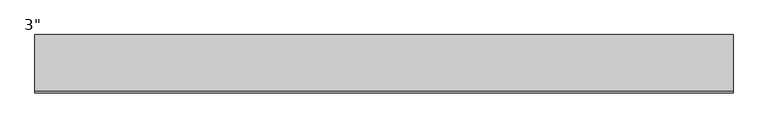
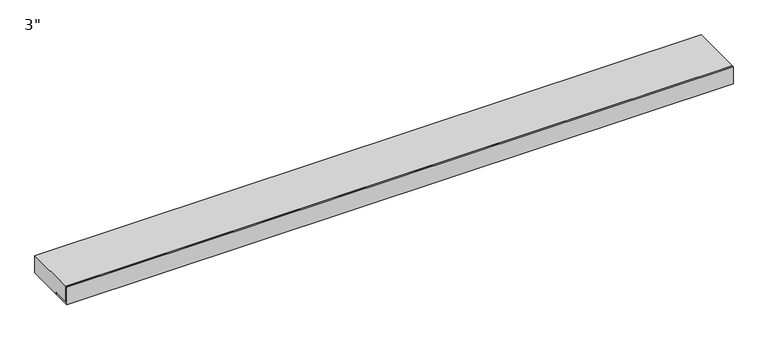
"""IFC4 building model written with IfcOpenShell, lengths in millimetres: proxy geometry."""

from ifc_helpers import new_model, si_unit, frame, origin, place, context, project, spatial, polyline, outline, extrude, faceted_brep, source, transform, mapped, element, save


def proxy_691c8b69(model_context):
    return source(origin(), model_context, "Body", "SolidModel", [
        faceted_brep([(1219.2, 101.6, 9.525), (1219.2, 101.6, 76.2), (1219.2, -95.25, 76.2), (1219.2, -95.25, 15.875), (1219.2, -34.925, 15.875), (1219.2, -34.925, 9.525), (-1219.2, -34.925, 9.525), (-1219.2, -34.925, 15.875), (-1219.2, -95.25, 15.875), (-1219.2, -95.25, 76.2), (-1219.2, 101.6, 76.2), (-1219.2, 101.6, 9.525), (1193.8, 101.6, 9.525), (1041.4, 101.6, 9.525), (990.6, 101.6, 9.525), (838.2, 101.6, 9.525), (787.4, 101.6, 9.525), (635.0, 101.6, 9.525), (584.2, 101.6, 9.525), (431.8, 101.6, 9.525), (381.0, 101.6, 9.525), (228.6, 101.6, 9.525), (177.8, 101.6, 9.525), (25.4, 101.6, 9.525), (-25.4, 101.6, 9.525), (-177.8, 101.6, 9.525), (-228.6, 101.6, 9.525), (-381.0, 101.6, 9.525), (-431.8, 101.6, 9.525), (-584.2, 101.6, 9.525), (-635.0, 101.6, 9.525), (-787.4, 101.6, 9.525), (-838.2, 101.6, 9.525), (-990.6, 101.6, 9.525), (-1041.4, 101.6, 9.525), (-1193.8, 101.6, 9.525), (-990.6, 92.075, 0.0), (-838.2, 92.075, 0.0), (-838.2, -25.4, 0.0), (-990.6, -25.4, 0.0), (-787.4, 92.075, 0.0), (-635.0, 92.075, 0.0), (-635.0, -25.4, 0.0), (-787.4, -25.4, 0.0), (-584.2, 92.075, 0.0), (-431.8, 92.075, 0.0), (-431.8, -25.4, 0.0), (-584.2, -25.4, 0.0), (-381.0, 92.075, 0.0), (-228.6, 92.075, 0.0), (-228.6, -25.4, 0.0), (-381.0, -25.4, 0.0), (-177.8, 92.075, 0.0), (-25.4, 92.075, 0.0), (-25.4, -25.4, 0.0), (-177.8, -25.4, 0.0), (25.4, 92.075, 0.0), (177.8, 92.075, 0.0), (177.8, -25.4, 0.0), (25.4, -25.4, 0.0), (228.6, 92.075, 0.0), (381.0, 92.075, 0.0), (381.0, -25.4, 0.0), (228.6, -25.4, 0.0), (431.8, 92.075, 0.0), (584.2, 92.075, 0.0), (584.2, -25.4, 0.0), (431.8, -25.4, 0.0), (635.0, 92.075, 0.0), (787.4, 92.075, 0.0), (787.4, -25.4, 0.0), (635.0, -25.4, 0.0), (838.2, 92.075, 0.0), (990.6, 92.075, 0.0), (990.6, -25.4, 0.0), (838.2, -25.4, 0.0), (-1193.8, 92.075, 0.0), (-1041.4, 92.075, 0.0), (-1041.4, -25.4, 0.0), (-1193.8, -25.4, 0.0), (1041.4, 92.075, 0.0), (1193.8, 92.075, 0.0), (1193.8, -25.4, 0.0), (1041.4, -25.4, 0.0), (-1193.8, -34.925, 9.525), (-1041.4, -34.925, 9.525), (-990.6, -34.925, 9.525), (-838.2, -34.925, 9.525), (-787.4, -34.925, 9.525), (-635.0, -34.925, 9.525), (-584.2, -34.925, 9.525), (-431.8, -34.925, 9.525), (-381.0, -34.925, 9.525), (-228.6, -34.925, 9.525), (-177.8, -34.925, 9.525), (-25.4, -34.925, 9.525), (25.4, -34.925, 9.525), (177.8, -34.925, 9.525), (228.6, -34.925, 9.525), (381.0, -34.925, 9.525), (431.8, -34.925, 9.525), (584.2, -34.925, 9.525), (635.0, -34.925, 9.525), (787.4, -34.925, 9.525), (838.2, -34.925, 9.525), (990.6, -34.925, 9.525), (1041.4, -34.925, 9.525), (1193.8, -34.925, 9.525)], [[[0, 1, 2, 3, 4, 5]], [[6, 7, 8, 9, 10, 11]], [[4, 3, 8, 7]], [[3, 2, 9, 8]], [[2, 1, 10, 9]], [[1, 0, 12, 13, 14, 15, 16, 17, 18, 19, 20, 21, 22, 23, 24, 25, 26, 27, 28, 29, 30, 31, 32, 33, 34, 35, 11, 10]], [[36, 37, 38, 39]], [[40, 41, 42, 43]], [[44, 45, 46, 47]], [[48, 49, 50, 51]], [[52, 53, 54, 55]], [[56, 57, 58, 59]], [[60, 61, 62, 63]], [[64, 65, 66, 67]], [[68, 69, 70, 71]], [[72, 73, 74, 75]], [[76, 77, 78, 79]], [[80, 81, 82, 83]], [[5, 4, 7, 6, 84, 85, 86, 87, 88, 89, 90, 91, 92, 93, 94, 95, 96, 97, 98, 99, 100, 101, 102, 103, 104, 105, 106, 107]], [[37, 36, 33, 32]], [[41, 40, 31, 30]], [[45, 44, 29, 28]], [[49, 48, 27, 26]], [[53, 52, 25, 24]], [[57, 56, 23, 22]], [[61, 60, 21, 20]], [[65, 64, 19, 18]], [[69, 68, 17, 16]], [[73, 72, 15, 14]], [[77, 76, 35, 34]], [[81, 80, 13, 12]], [[85, 84, 79, 78]], [[87, 86, 39, 38]], [[89, 88, 43, 42]], [[91, 90, 47, 46]], [[93, 92, 51, 50]], [[95, 94, 55, 54]], [[97, 96, 59, 58]], [[99, 98, 63, 62]], [[101, 100, 67, 66]], [[103, 102, 71, 70]], [[105, 104, 75, 74]], [[107, 106, 83, 82]], [[86, 33, 36, 39]], [[33, 86, 85, 34]], [[34, 85, 78, 77]], [[88, 31, 40, 43]], [[31, 88, 87, 32]], [[32, 87, 38, 37]], [[90, 29, 44, 47]], [[29, 90, 89, 30]], [[30, 89, 42, 41]], [[92, 27, 48, 51]], [[27, 92, 91, 28]], [[28, 91, 46, 45]], [[94, 25, 52, 55]], [[25, 94, 93, 26]], [[26, 93, 50, 49]], [[96, 23, 56, 59]], [[23, 96, 95, 24]], [[24, 95, 54, 53]], [[98, 21, 60, 63]], [[21, 98, 97, 22]], [[22, 97, 58, 57]], [[100, 19, 64, 67]], [[19, 100, 99, 20]], [[20, 99, 62, 61]], [[102, 17, 68, 71]], [[17, 102, 101, 18]], [[18, 101, 66, 65]], [[104, 15, 72, 75]], [[15, 104, 103, 16]], [[16, 103, 70, 69]], [[106, 13, 80, 83]], [[13, 106, 105, 14]], [[14, 105, 74, 73]], [[107, 12, 0, 5]], [[12, 107, 82, 81]], [[35, 84, 6, 11]], [[84, 35, 76, 79]]]),
        extrude(outline(polyline([(-101.6, 76.2), (-95.25, 76.2), (-95.25, 15.875), (-34.925, 15.875), (-34.925, 9.525), (-101.6, 9.525), (-101.6, 76.2)])), frame((-1219.2, 0.0, 0.0), z_axis=(1.0, 0.0, 0.0), x_axis=(0.0, 1.0, 0.0)), (0.0, 0.0, 1.0), 2438.4),
    ])


if __name__ == "__main__":
    model = new_model("IFC4")
    model_context = context("Model", 3, world=origin())
    ifc_project = project(units=[si_unit("LENGTHUNIT", "METRE", prefix="MILLI")], contexts=[model_context])
    site = spatial("IfcSite", under=ifc_project)
    building = spatial("IfcBuilding", under=site)
    placement = place(None, origin())
    proxy_shape = proxy_691c8b69(model_context)
    element("IfcBuildingElementProxy", 1, Name="Durabond Generic Model Insulite Select Extruded Vent Board : 3\"", ObjectType="Durabond Generic Model Insulite Select Extruded Vent Board : 3\"", at=placement, inside=building, context=model_context, shape_type="MappedRepresentation", body=[
        mapped(proxy_shape, transform((0.0, 0.0, 0.0), x_axis=(1.0, 0.0, 0.0), y_axis=(0.0, 1.0, 0.0), z_axis=(0.0, 0.0, 1.0))),
    ])
    save(model, "model.ifc")
